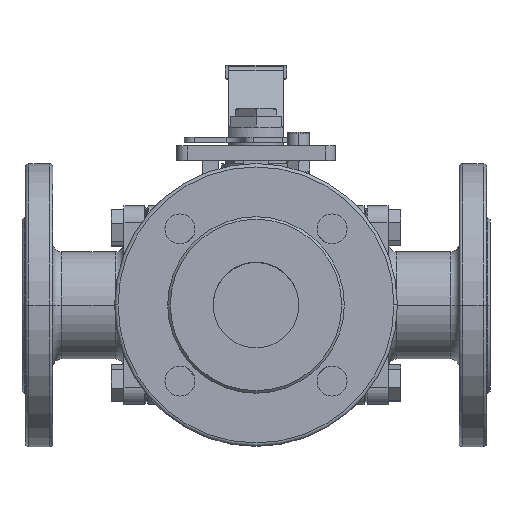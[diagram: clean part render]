
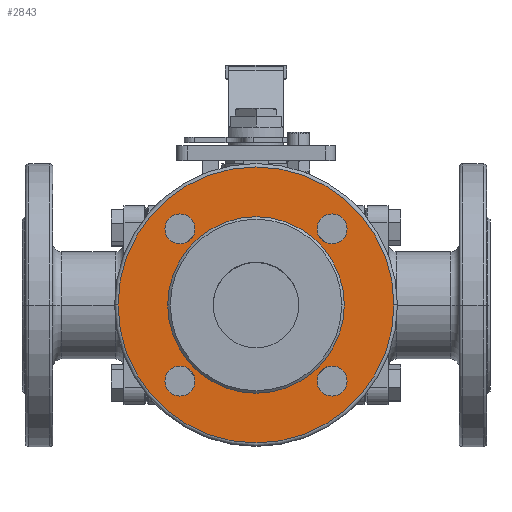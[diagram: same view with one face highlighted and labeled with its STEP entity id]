
A CAD part, top view. The second image highlights one B-rep face of the part: STEP entity #2843.
In plain terms, the highlighted planar face has unit normal (0, 0, 1) as drawn and (1, 0, 0) by its records, which use the part's own axes.
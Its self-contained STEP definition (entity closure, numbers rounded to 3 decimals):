
#1703 = EDGE_CURVE ( 'NONE', #2155, #2152, #5802, .T. ) ;
#1714 = EDGE_CURVE ( 'NONE', #2124, #2121, #5818, .T. ) ;
#1719 = EDGE_CURVE ( 'NONE', #2131, #2122, #5823, .T. ) ;
#1741 = EDGE_CURVE ( 'NONE', #2142, #2139, #5862, .T. ) ;
#1744 = EDGE_CURVE ( 'NONE', #2130, #2127, #5869, .T. ) ;
#1745 = EDGE_CURVE ( 'NONE', #2117, #2113, #5867, .T. ) ;
#1778 = EDGE_CURVE ( 'NONE', #2122, #2131, #5913, .T. ) ;
#1779 = EDGE_CURVE ( 'NONE', #2152, #2155, #5915, .T. ) ;
#1780 = EDGE_CURVE ( 'NONE', #2139, #2142, #5917, .T. ) ;
#1781 = EDGE_CURVE ( 'NONE', #2127, #2130, #5919, .T. ) ;
#1782 = EDGE_CURVE ( 'NONE', #2113, #2117, #5921, .T. ) ;
#1783 = EDGE_CURVE ( 'NONE', #2121, #2124, #5923, .T. ) ;
#2113 = VERTEX_POINT ( 'NONE', #5045 ) ;
#2117 = VERTEX_POINT ( 'NONE', #5049 ) ;
#2121 = VERTEX_POINT ( 'NONE', #5053 ) ;
#2122 = VERTEX_POINT ( 'NONE', #5054 ) ;
#2124 = VERTEX_POINT ( 'NONE', #5056 ) ;
#2127 = VERTEX_POINT ( 'NONE', #5059 ) ;
#2130 = VERTEX_POINT ( 'NONE', #5062 ) ;
#2131 = VERTEX_POINT ( 'NONE', #5063 ) ;
#2139 = VERTEX_POINT ( 'NONE', #5071 ) ;
#2142 = VERTEX_POINT ( 'NONE', #5074 ) ;
#2152 = VERTEX_POINT ( 'NONE', #5084 ) ;
#2155 = VERTEX_POINT ( 'NONE', #5087 ) ;
#2843 = ADVANCED_FACE ( 'NONE', ( #10017, #10019, #10021, #10014, #10023, #10018 ), #10020, .F. ) ;
#4400 = CARTESIAN_POINT ( 'NONE',  ( 69.5, 44.371, 44.371 ) ) ;
#4401 = DIRECTION ( 'NONE',  ( 1., 0., 0. ) ) ;
#4402 = DIRECTION ( 'NONE',  ( 0., 0., -1. ) ) ;
#4434 = CARTESIAN_POINT ( 'NONE',  ( 69.5, 0., 0. ) ) ;
#4435 = DIRECTION ( 'NONE',  ( 1., 0., 0. ) ) ;
#4436 = DIRECTION ( 'NONE',  ( 0., 0., 1. ) ) ;
#4449 = CARTESIAN_POINT ( 'NONE',  ( 69.5, 0., 0. ) ) ;
#4450 = DIRECTION ( 'NONE',  ( 1., 0., 0. ) ) ;
#4451 = DIRECTION ( 'NONE',  ( 0., 0., 1. ) ) ;
#4513 = CARTESIAN_POINT ( 'NONE',  ( 69.5, -44.371, 44.371 ) ) ;
#4514 = DIRECTION ( 'NONE',  ( 1., 0., 0. ) ) ;
#4515 = DIRECTION ( 'NONE',  ( 0., 0., -1. ) ) ;
#4523 = CARTESIAN_POINT ( 'NONE',  ( 69.5, -44.371, -44.371 ) ) ;
#4524 = DIRECTION ( 'NONE',  ( 1., 0., 0. ) ) ;
#4525 = DIRECTION ( 'NONE',  ( 0., 0., -1. ) ) ;
#4526 = CARTESIAN_POINT ( 'NONE',  ( 69.5, 44.371, -44.371 ) ) ;
#4527 = DIRECTION ( 'NONE',  ( 1., 0., 0. ) ) ;
#4528 = DIRECTION ( 'NONE',  ( 0., 0., -1. ) ) ;
#4623 = CARTESIAN_POINT ( 'NONE',  ( 69.5, 0., 0. ) ) ;
#4624 = DIRECTION ( 'NONE',  ( 1., 0., 0. ) ) ;
#4625 = DIRECTION ( 'NONE',  ( 0., 0., 1. ) ) ;
#4626 = CARTESIAN_POINT ( 'NONE',  ( 69.5, 44.371, 44.371 ) ) ;
#4627 = DIRECTION ( 'NONE',  ( 1., 0., 0. ) ) ;
#4628 = DIRECTION ( 'NONE',  ( 0., 0., -1. ) ) ;
#4629 = CARTESIAN_POINT ( 'NONE',  ( 69.5, -44.371, 44.371 ) ) ;
#4630 = DIRECTION ( 'NONE',  ( 1., 0., 0. ) ) ;
#4631 = DIRECTION ( 'NONE',  ( 0., 0., -1. ) ) ;
#4632 = CARTESIAN_POINT ( 'NONE',  ( 69.5, -44.371, -44.371 ) ) ;
#4633 = DIRECTION ( 'NONE',  ( 1., 0., 0. ) ) ;
#4634 = DIRECTION ( 'NONE',  ( 0., 0., -1. ) ) ;
#4635 = CARTESIAN_POINT ( 'NONE',  ( 69.5, 44.371, -44.371 ) ) ;
#4636 = DIRECTION ( 'NONE',  ( 1., 0., 0. ) ) ;
#4637 = DIRECTION ( 'NONE',  ( 0., 0., -1. ) ) ;
#4638 = CARTESIAN_POINT ( 'NONE',  ( 69.5, 0., 0. ) ) ;
#4639 = DIRECTION ( 'NONE',  ( 1., 0., 0. ) ) ;
#4640 = DIRECTION ( 'NONE',  ( 0., 0., 1. ) ) ;
#5045 = CARTESIAN_POINT ( 'NONE',  ( 69.5, 44.371, -53.121 ) ) ;
#5049 = CARTESIAN_POINT ( 'NONE',  ( 69.5, 44.371, -35.621 ) ) ;
#5053 = CARTESIAN_POINT ( 'NONE',  ( 69.5, 0., 51.5 ) ) ;
#5054 = CARTESIAN_POINT ( 'NONE',  ( 69.5, 0., 80.5 ) ) ;
#5056 = CARTESIAN_POINT ( 'NONE',  ( 69.5, 0., -51.5 ) ) ;
#5059 = CARTESIAN_POINT ( 'NONE',  ( 69.5, -44.371, -53.121 ) ) ;
#5062 = CARTESIAN_POINT ( 'NONE',  ( 69.5, -44.371, -35.621 ) ) ;
#5063 = CARTESIAN_POINT ( 'NONE',  ( 69.5, 0., -80.5 ) ) ;
#5071 = CARTESIAN_POINT ( 'NONE',  ( 69.5, -44.371, 35.621 ) ) ;
#5074 = CARTESIAN_POINT ( 'NONE',  ( 69.5, -44.371, 53.121 ) ) ;
#5084 = CARTESIAN_POINT ( 'NONE',  ( 69.5, 44.371, 35.621 ) ) ;
#5087 = CARTESIAN_POINT ( 'NONE',  ( 69.5, 44.371, 53.121 ) ) ;
#5497 = AXIS2_PLACEMENT_3D ( 'NONE', #10012, #10025, #10026 ) ;
#5802 = CIRCLE ( 'NONE', #5806, 8.75 ) ;
#5806 = AXIS2_PLACEMENT_3D ( 'NONE', #4400, #4401, #4402 ) ;
#5818 = CIRCLE ( 'NONE', #5822, 51.5 ) ;
#5822 = AXIS2_PLACEMENT_3D ( 'NONE', #4434, #4435, #4436 ) ;
#5823 = CIRCLE ( 'NONE', #5828, 80.5 ) ;
#5828 = AXIS2_PLACEMENT_3D ( 'NONE', #4449, #4450, #4451 ) ;
#5862 = CIRCLE ( 'NONE', #5866, 8.75 ) ;
#5866 = AXIS2_PLACEMENT_3D ( 'NONE', #4513, #4514, #4515 ) ;
#5867 = CIRCLE ( 'NONE', #5873, 8.75 ) ;
#5869 = CIRCLE ( 'NONE', #5871, 8.75 ) ;
#5871 = AXIS2_PLACEMENT_3D ( 'NONE', #4523, #4524, #4525 ) ;
#5873 = AXIS2_PLACEMENT_3D ( 'NONE', #4526, #4527, #4528 ) ;
#5913 = CIRCLE ( 'NONE', #5916, 80.5 ) ;
#5915 = CIRCLE ( 'NONE', #5918, 8.75 ) ;
#5916 = AXIS2_PLACEMENT_3D ( 'NONE', #4623, #4624, #4625 ) ;
#5917 = CIRCLE ( 'NONE', #5920, 8.75 ) ;
#5918 = AXIS2_PLACEMENT_3D ( 'NONE', #4626, #4627, #4628 ) ;
#5919 = CIRCLE ( 'NONE', #5922, 8.75 ) ;
#5920 = AXIS2_PLACEMENT_3D ( 'NONE', #4629, #4630, #4631 ) ;
#5921 = CIRCLE ( 'NONE', #5924, 8.75 ) ;
#5922 = AXIS2_PLACEMENT_3D ( 'NONE', #4632, #4633, #4634 ) ;
#5923 = CIRCLE ( 'NONE', #5926, 51.5 ) ;
#5924 = AXIS2_PLACEMENT_3D ( 'NONE', #4635, #4636, #4637 ) ;
#5926 = AXIS2_PLACEMENT_3D ( 'NONE', #4638, #4639, #4640 ) ;
#10012 = CARTESIAN_POINT ( 'NONE',  ( 69.5, 0., 0. ) ) ;
#10014 = FACE_BOUND ( 'NONE', #14055, .T. ) ;
#10017 = FACE_OUTER_BOUND ( 'NONE', #14045, .T. ) ;
#10018 = FACE_BOUND ( 'NONE', #14053, .T. ) ;
#10019 = FACE_BOUND ( 'NONE', #14054, .T. ) ;
#10020 = PLANE ( 'NONE',  #5497 ) ;
#10021 = FACE_BOUND ( 'NONE', #14056, .T. ) ;
#10023 = FACE_BOUND ( 'NONE', #14046, .T. ) ;
#10025 = DIRECTION ( 'NONE',  ( -1., 0., 0. ) ) ;
#10026 = DIRECTION ( 'NONE',  ( 0., 0., 1. ) ) ;
#13712 = ORIENTED_EDGE ( 'NONE', *, *, #1778, .T. ) ;
#13713 = ORIENTED_EDGE ( 'NONE', *, *, #1719, .T. ) ;
#13714 = ORIENTED_EDGE ( 'NONE', *, *, #1779, .F. ) ;
#13715 = ORIENTED_EDGE ( 'NONE', *, *, #1703, .F. ) ;
#13716 = ORIENTED_EDGE ( 'NONE', *, *, #1780, .F. ) ;
#13717 = ORIENTED_EDGE ( 'NONE', *, *, #1741, .F. ) ;
#13718 = ORIENTED_EDGE ( 'NONE', *, *, #1781, .F. ) ;
#13719 = ORIENTED_EDGE ( 'NONE', *, *, #1744, .F. ) ;
#13720 = ORIENTED_EDGE ( 'NONE', *, *, #1782, .F. ) ;
#13721 = ORIENTED_EDGE ( 'NONE', *, *, #1745, .F. ) ;
#13722 = ORIENTED_EDGE ( 'NONE', *, *, #1714, .F. ) ;
#13723 = ORIENTED_EDGE ( 'NONE', *, *, #1783, .F. ) ;
#14045 = EDGE_LOOP ( 'NONE', ( #13712, #13713 ) ) ;
#14046 = EDGE_LOOP ( 'NONE', ( #13720, #13721 ) ) ;
#14053 = EDGE_LOOP ( 'NONE', ( #13722, #13723 ) ) ;
#14054 = EDGE_LOOP ( 'NONE', ( #13714, #13715 ) ) ;
#14055 = EDGE_LOOP ( 'NONE', ( #13718, #13719 ) ) ;
#14056 = EDGE_LOOP ( 'NONE', ( #13716, #13717 ) ) ;
